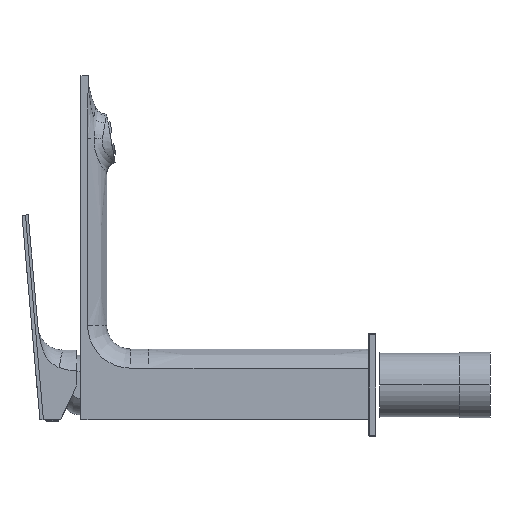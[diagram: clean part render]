
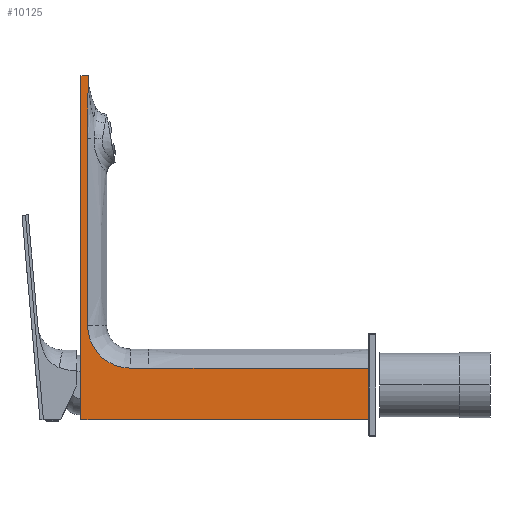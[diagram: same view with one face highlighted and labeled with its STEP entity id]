
A CAD part, left-side view. The second image highlights one B-rep face of the part: STEP entity #10125.
In plain terms, the highlighted planar face has unit normal (-1, 0, 0).
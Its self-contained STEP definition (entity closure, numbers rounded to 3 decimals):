
#2879=DIRECTION('',(0.,0.,1.));
#2880=VECTOR('',#2879,25.207);
#2881=CARTESIAN_POINT('',(-17.5,-137.,-17.));
#2882=LINE('',#2881,#2880);
#2883=CARTESIAN_POINT('',(-17.5,-137.,8.207));
#2955=CARTESIAN_POINT('',(-17.5,-30.,8.207));
#2970=DIRECTION('',(0.,1.,0.));
#2971=VECTOR('',#2970,107.);
#2972=CARTESIAN_POINT('',(-17.5,-137.,8.207));
#2973=LINE('',#2972,#2971);
#2974=DIRECTION('',(0.,1.,0.));
#2975=VECTOR('',#2974,140.);
#2976=CARTESIAN_POINT('',(-17.5,-137.,-17.));
#2977=LINE('',#2976,#2975);
#2978=DIRECTION('',(0.,0.,-1.));
#2979=VECTOR('',#2978,167.5);
#2980=CARTESIAN_POINT('',(-17.5,3.,150.5));
#2981=LINE('',#2980,#2979);
#2982=CARTESIAN_POINT('',(-17.5,-21.,29.));
#2983=DIRECTION('',(-1.,0.,0.));
#2984=DIRECTION('',(0.,1.,0.));
#2985=AXIS2_PLACEMENT_3D('',#2982,#2983,#2984);
#2987=DIRECTION('',(0.,-1.,0.));
#2988=VECTOR('',#2987,9.);
#2989=CARTESIAN_POINT('',(-17.5,-21.,8.207));
#2990=LINE('',#2989,#2988);
#3094=DIRECTION('',(0.,1.,0.));
#3095=VECTOR('',#3094,3.495);
#3096=CARTESIAN_POINT('',(-17.5,-0.495,150.5));
#3097=LINE('',#3096,#3095);
#3327=DIRECTION('',(0.,0.,1.));
#3328=VECTOR('',#3327,91.);
#3329=CARTESIAN_POINT('',(-17.5,-0.207,29.));
#3330=LINE('',#3329,#3328);
#3375=CARTESIAN_POINT('',(-17.5,-0.495,150.5));
#3376=CARTESIAN_POINT('',(-17.5,-0.483,149.647));
#3377=CARTESIAN_POINT('',(-17.5,-0.459,147.943));
#3378=CARTESIAN_POINT('',(-17.5,-0.425,145.39));
#3379=CARTESIAN_POINT('',(-17.5,-0.392,
142.836));
#3380=CARTESIAN_POINT('',(-17.5,-0.36,
140.28));
#3381=CARTESIAN_POINT('',(-17.5,-0.33,
137.719));
#3382=CARTESIAN_POINT('',(-17.5,-0.301,
135.161));
#3383=CARTESIAN_POINT('',(-17.5,-0.275,
132.614));
#3384=CARTESIAN_POINT('',(-17.5,-0.252,
130.08));
#3385=CARTESIAN_POINT('',(-17.5,-0.233,
127.558));
#3386=CARTESIAN_POINT('',(-17.5,-0.218,
125.041));
#3387=CARTESIAN_POINT('',(-17.5,-0.209,
122.526));
#3388=CARTESIAN_POINT('',(-17.5,-0.207,
120.843));
#3389=CARTESIAN_POINT('',(-17.5,-0.207,
120.));
#5183=CARTESIAN_POINT('',(-17.5,-0.207,29.));
#5184=CARTESIAN_POINT('',(-17.5,-21.,8.207));
#5185=VERTEX_POINT('',#5183);
#5186=VERTEX_POINT('',#5184);
#5187=VERTEX_POINT('',#3375);
#5188=VERTEX_POINT('',#3389);
#5202=VERTEX_POINT('',#2883);
#5206=VERTEX_POINT('',#2955);
#5237=CARTESIAN_POINT('',(-17.5,-137.,-17.));
#5239=VERTEX_POINT('',#5237);
#5240=CARTESIAN_POINT('',(-17.5,3.,-17.));
#5241=VERTEX_POINT('',#5240);
#5242=CARTESIAN_POINT('',(-17.5,3.,150.5));
#5243=VERTEX_POINT('',#5242);
#10104=CARTESIAN_POINT('',(-17.5,3.,33.));
#10105=DIRECTION('',(-1.,0.,0.));
#10106=DIRECTION('',(0.,-1.,0.));
#10107=AXIS2_PLACEMENT_3D('',#10104,#10105,#10106);
#10108=PLANE('',#10107);
#10109=ORIENTED_EDGE('',*,*,#9987,.T.);
#10111=ORIENTED_EDGE('',*,*,#10110,.F.);
#10113=ORIENTED_EDGE('',*,*,#10112,.F.);
#10115=ORIENTED_EDGE('',*,*,#10114,.T.);
#10117=ORIENTED_EDGE('',*,*,#10116,.F.);
#10119=ORIENTED_EDGE('',*,*,#10118,.T.);
#10120=ORIENTED_EDGE('',*,*,#10075,.T.);
#10121=ORIENTED_EDGE('',*,*,#10099,.F.);
#10122=ORIENTED_EDGE('',*,*,#9961,.F.);
#10123=EDGE_LOOP('',(#10109,#10111,#10113,#10115,#10117,#10119,#10120,#10121,
#10122));
#10124=FACE_OUTER_BOUND('',#10123,.F.);
#10125=ADVANCED_FACE('',(#10124),#10108,.T.);
#2986=CIRCLE('',#2985,20.793);
#3390=B_SPLINE_CURVE_WITH_KNOTS('',3,(#3375,#3376,#3377,#3378,#3379,#3380,#3381,
#3382,#3383,#3384,#3385,#3386,#3387,#3388,#3389),.UNSPECIFIED.,.F.,.F.,(4,1,1,1,
1,1,1,1,1,1,1,1,4),(0.,0.083,0.167,0.25,
0.333,0.417,0.5,0.583,0.667,
0.75,0.833,0.917,1.),.UNSPECIFIED.);
#9961=EDGE_CURVE('',#5239,#5202,#2882,.T.);
#9987=EDGE_CURVE('',#5239,#5241,#2977,.T.);
#10075=EDGE_CURVE('',#5186,#5206,#2990,.T.);
#10099=EDGE_CURVE('',#5202,#5206,#2973,.T.);
#10110=EDGE_CURVE('',#5243,#5241,#2981,.T.);
#10112=EDGE_CURVE('',#5187,#5243,#3097,.T.);
#10114=EDGE_CURVE('',#5187,#5188,#3390,.T.);
#10116=EDGE_CURVE('',#5185,#5188,#3330,.T.);
#10118=EDGE_CURVE('',#5185,#5186,#2986,.T.);
